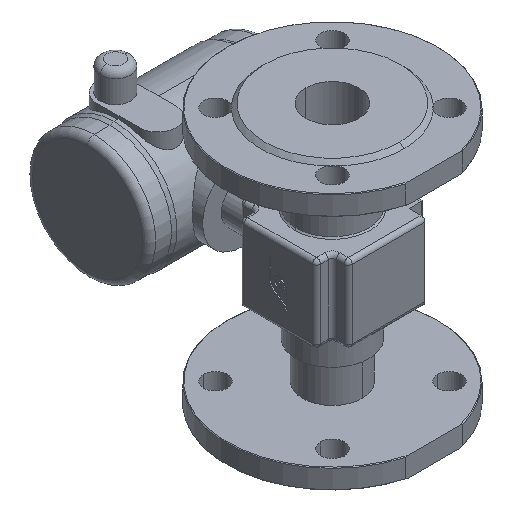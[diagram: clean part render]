
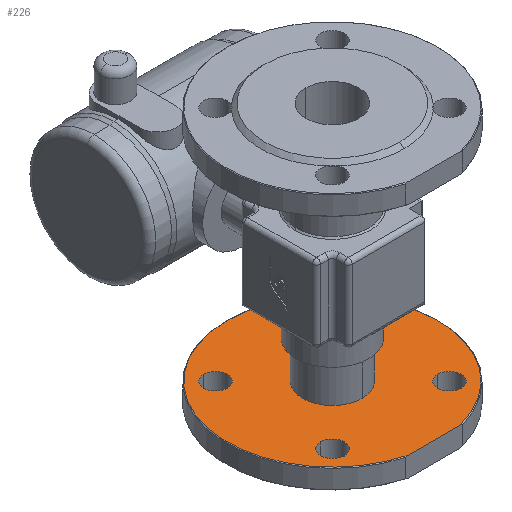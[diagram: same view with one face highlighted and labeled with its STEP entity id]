
A CAD part, isometric view. The second image highlights one B-rep face of the part: STEP entity #226.
In plain terms, the highlighted planar face has unit normal (0, 0, 1).
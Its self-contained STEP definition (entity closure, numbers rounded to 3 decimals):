
#9 = VERTEX_POINT ( 'NONE', #5303 ) ;
#173 = DIRECTION ( 'NONE',  ( 1., 0., 0. ) ) ;
#198 = CIRCLE ( 'NONE', #4290, 9. ) ;
#226 = ADVANCED_FACE ( 'NONE', ( #3074, #4238, #6358, #287, #6206, #5241 ), #6306, .T. ) ;
#236 = CARTESIAN_POINT ( 'NONE',  ( 21.703, -77., -167. ) ) ;
#287 = FACE_BOUND ( 'NONE', #4458, .T. ) ;
#324 = EDGE_CURVE ( 'NONE', #758, #1953, #3583, .T. ) ;
#327 = EDGE_CURVE ( 'NONE', #5993, #2385, #3735, .T. ) ;
#346 = DIRECTION ( 'NONE',  ( 0., -1., 0. ) ) ;
#349 = DIRECTION ( 'NONE',  ( 0., 0., 1. ) ) ;
#362 = CARTESIAN_POINT ( 'NONE',  ( 0., 0., -167. ) ) ;
#363 = CIRCLE ( 'NONE', #483, 79.5 ) ;
#422 = DIRECTION ( 'NONE',  ( 0., -1., 0. ) ) ;
#428 = DIRECTION ( 'NONE',  ( 0., 0., -1. ) ) ;
#431 = CARTESIAN_POINT ( 'NONE',  ( 44.194, -44.194, -167. ) ) ;
#483 = AXIS2_PLACEMENT_3D ( 'NONE', #2424, #2417, #2384 ) ;
#493 = ORIENTED_EDGE ( 'NONE', *, *, #5205, .T. ) ;
#544 = CARTESIAN_POINT ( 'NONE',  ( -44.194, 53.194, -167. ) ) ;
#724 = DIRECTION ( 'NONE',  ( 0., -1., 0. ) ) ;
#737 = DIRECTION ( 'NONE',  ( 0., 0., -1. ) ) ;
#758 = VERTEX_POINT ( 'NONE', #3039 ) ;
#761 = CARTESIAN_POINT ( 'NONE',  ( 44.194, -44.194, -167. ) ) ;
#869 = CARTESIAN_POINT ( 'NONE',  ( 19.78, -77., -167. ) ) ;
#960 = EDGE_CURVE ( 'NONE', #4694, #5348, #4862, .T. ) ;
#1115 = EDGE_CURVE ( 'NONE', #2385, #5993, #2652, .T. ) ;
#1265 = AXIS2_PLACEMENT_3D ( 'NONE', #3183, #3173, #3147 ) ;
#1277 = DIRECTION ( 'NONE',  ( 0., 1., 0. ) ) ;
#1279 = DIRECTION ( 'NONE',  ( 0., 0., -1. ) ) ;
#1297 = CARTESIAN_POINT ( 'NONE',  ( 0., 0., -167. ) ) ;
#1404 = EDGE_CURVE ( 'NONE', #1953, #758, #5569, .T. ) ;
#1468 = AXIS2_PLACEMENT_3D ( 'NONE', #2476, #3495, #3511 ) ;
#1623 = EDGE_CURVE ( 'NONE', #2573, #9, #4169, .T. ) ;
#1636 = EDGE_CURVE ( 'NONE', #4838, #4503, #4103, .T. ) ;
#1653 = CARTESIAN_POINT ( 'NONE',  ( 0., 79.5, -167. ) ) ;
#1682 = CIRCLE ( 'NONE', #1468, 9. ) ;
#1717 = EDGE_CURVE ( 'NONE', #5680, #4838, #3558, .T. ) ;
#1760 = AXIS2_PLACEMENT_3D ( 'NONE', #6345, #6199, #6353 ) ;
#1904 = CARTESIAN_POINT ( 'NONE',  ( 44.194, -53.194, -167. ) ) ;
#1953 = VERTEX_POINT ( 'NONE', #3749 ) ;
#2211 = DIRECTION ( 'NONE',  ( 0., 0., -1. ) ) ;
#2384 = DIRECTION ( 'NONE',  ( 0., -1., 0. ) ) ;
#2385 = VERTEX_POINT ( 'NONE', #3700 ) ;
#2417 = DIRECTION ( 'NONE',  ( 0., 0., 1. ) ) ;
#2424 = CARTESIAN_POINT ( 'NONE',  ( 0., 0., -167. ) ) ;
#2476 = CARTESIAN_POINT ( 'NONE',  ( -44.194, 44.194, -167. ) ) ;
#2573 = VERTEX_POINT ( 'NONE', #1904 ) ;
#2652 = CIRCLE ( 'NONE', #4622, 9. ) ;
#3039 = CARTESIAN_POINT ( 'NONE',  ( 0., -22.5, -167. ) ) ;
#3074 = FACE_OUTER_BOUND ( 'NONE', #4526, .T. ) ;
#3147 = DIRECTION ( 'NONE',  ( 0., -1., 0. ) ) ;
#3173 = DIRECTION ( 'NONE',  ( 0., 0., -1. ) ) ;
#3183 = CARTESIAN_POINT ( 'NONE',  ( -44.194, 44.194, -167. ) ) ;
#3357 = EDGE_CURVE ( 'NONE', #6188, #4192, #3853, .T. ) ;
#3495 = DIRECTION ( 'NONE',  ( 0., 0., -1. ) ) ;
#3511 = DIRECTION ( 'NONE',  ( 0., -1., 0. ) ) ;
#3547 = VECTOR ( 'NONE', #173, 1000. ) ;
#3558 = LINE ( 'NONE', #236, #3547 ) ;
#3567 = CARTESIAN_POINT ( 'NONE',  ( -19.78, -77., -167. ) ) ;
#3583 = CIRCLE ( 'NONE', #4756, 22.5 ) ;
#3700 = CARTESIAN_POINT ( 'NONE',  ( -44.194, -35.194, -167. ) ) ;
#3715 = DIRECTION ( 'NONE',  ( 0., 0., -1. ) ) ;
#3722 = DIRECTION ( 'NONE',  ( 0., -1., 0. ) ) ;
#3735 = CIRCLE ( 'NONE', #5346, 9. ) ;
#3749 = CARTESIAN_POINT ( 'NONE',  ( 0., 22.5, -167. ) ) ;
#3816 = EDGE_CURVE ( 'NONE', #4192, #6188, #1682, .T. ) ;
#3848 = CARTESIAN_POINT ( 'NONE',  ( -44.194, -44.194, -167. ) ) ;
#3853 = CIRCLE ( 'NONE', #1265, 9. ) ;
#3875 = AXIS2_PLACEMENT_3D ( 'NONE', #1297, #1279, #1277 ) ;
#3983 = ORIENTED_EDGE ( 'NONE', *, *, #324, .T. ) ;
#4045 = DIRECTION ( 'NONE',  ( 0., 1., 0. ) ) ;
#4051 = DIRECTION ( 'NONE',  ( 0., -1., 0. ) ) ;
#4103 = CIRCLE ( 'NONE', #5882, 79.5 ) ;
#4128 = ORIENTED_EDGE ( 'NONE', *, *, #1404, .T. ) ;
#4169 = CIRCLE ( 'NONE', #4692, 9. ) ;
#4180 = CARTESIAN_POINT ( 'NONE',  ( -44.194, -44.194, -167. ) ) ;
#4192 = VERTEX_POINT ( 'NONE', #5071 ) ;
#4196 = CARTESIAN_POINT ( 'NONE',  ( 0., 0., -167. ) ) ;
#4201 = DIRECTION ( 'NONE',  ( 0., 0., -1. ) ) ;
#4238 = FACE_BOUND ( 'NONE', #4614, .T. ) ;
#4290 = AXIS2_PLACEMENT_3D ( 'NONE', #5534, #5495, #5463 ) ;
#4340 = ORIENTED_EDGE ( 'NONE', *, *, #5537, .T. ) ;
#4417 = ORIENTED_EDGE ( 'NONE', *, *, #960, .T. ) ;
#4442 = CIRCLE ( 'NONE', #4702, 9. ) ;
#4458 = EDGE_LOOP ( 'NONE', ( #4753, #4748 ) ) ;
#4480 = EDGE_LOOP ( 'NONE', ( #4128, #3983 ) ) ;
#4503 = VERTEX_POINT ( 'NONE', #1653 ) ;
#4526 = EDGE_LOOP ( 'NONE', ( #5251, #6186, #5873 ) ) ;
#4608 = EDGE_LOOP ( 'NONE', ( #493, #5219 ) ) ;
#4614 = EDGE_LOOP ( 'NONE', ( #5794, #5524 ) ) ;
#4622 = AXIS2_PLACEMENT_3D ( 'NONE', #3848, #3715, #3722 ) ;
#4668 = EDGE_LOOP ( 'NONE', ( #4417, #4340 ) ) ;
#4692 = AXIS2_PLACEMENT_3D ( 'NONE', #431, #428, #422 ) ;
#4694 = VERTEX_POINT ( 'NONE', #6031 ) ;
#4702 = AXIS2_PLACEMENT_3D ( 'NONE', #761, #737, #724 ) ;
#4748 = ORIENTED_EDGE ( 'NONE', *, *, #3816, .T. ) ;
#4753 = ORIENTED_EDGE ( 'NONE', *, *, #3357, .T. ) ;
#4756 = AXIS2_PLACEMENT_3D ( 'NONE', #4196, #4201, #4045 ) ;
#4838 = VERTEX_POINT ( 'NONE', #869 ) ;
#4862 = CIRCLE ( 'NONE', #5625, 9. ) ;
#5071 = CARTESIAN_POINT ( 'NONE',  ( -44.194, 35.194, -167. ) ) ;
#5205 = EDGE_CURVE ( 'NONE', #9, #2573, #4442, .T. ) ;
#5219 = ORIENTED_EDGE ( 'NONE', *, *, #1623, .T. ) ;
#5241 = FACE_BOUND ( 'NONE', #4480, .T. ) ;
#5251 = ORIENTED_EDGE ( 'NONE', *, *, #1717, .T. ) ;
#5303 = CARTESIAN_POINT ( 'NONE',  ( 44.194, -35.194, -167. ) ) ;
#5346 = AXIS2_PLACEMENT_3D ( 'NONE', #4180, #2211, #4051 ) ;
#5348 = VERTEX_POINT ( 'NONE', #5366 ) ;
#5366 = CARTESIAN_POINT ( 'NONE',  ( 44.194, 35.194, -167. ) ) ;
#5459 = CARTESIAN_POINT ( 'NONE',  ( -44.194, -53.194, -167. ) ) ;
#5463 = DIRECTION ( 'NONE',  ( 0., -1., 0. ) ) ;
#5495 = DIRECTION ( 'NONE',  ( 0., 0., -1. ) ) ;
#5505 = CARTESIAN_POINT ( 'NONE',  ( 44.194, 44.194, -167. ) ) ;
#5524 = ORIENTED_EDGE ( 'NONE', *, *, #327, .T. ) ;
#5531 = DIRECTION ( 'NONE',  ( 0., 0., -1. ) ) ;
#5534 = CARTESIAN_POINT ( 'NONE',  ( 44.194, 44.194, -167. ) ) ;
#5536 = DIRECTION ( 'NONE',  ( 0., -1., 0. ) ) ;
#5537 = EDGE_CURVE ( 'NONE', #5348, #4694, #198, .T. ) ;
#5569 = CIRCLE ( 'NONE', #3875, 22.5 ) ;
#5625 = AXIS2_PLACEMENT_3D ( 'NONE', #5505, #5531, #5536 ) ;
#5680 = VERTEX_POINT ( 'NONE', #3567 ) ;
#5794 = ORIENTED_EDGE ( 'NONE', *, *, #1115, .T. ) ;
#5873 = ORIENTED_EDGE ( 'NONE', *, *, #6126, .T. ) ;
#5882 = AXIS2_PLACEMENT_3D ( 'NONE', #362, #349, #346 ) ;
#5993 = VERTEX_POINT ( 'NONE', #5459 ) ;
#6031 = CARTESIAN_POINT ( 'NONE',  ( 44.194, 53.194, -167. ) ) ;
#6126 = EDGE_CURVE ( 'NONE', #4503, #5680, #363, .T. ) ;
#6186 = ORIENTED_EDGE ( 'NONE', *, *, #1636, .T. ) ;
#6188 = VERTEX_POINT ( 'NONE', #544 ) ;
#6199 = DIRECTION ( 'NONE',  ( 0., 0., 1. ) ) ;
#6206 = FACE_BOUND ( 'NONE', #4668, .T. ) ;
#6306 = PLANE ( 'NONE',  #1760 ) ;
#6345 = CARTESIAN_POINT ( 'NONE',  ( 0., 80., -167. ) ) ;
#6353 = DIRECTION ( 'NONE',  ( 0., -1., 0. ) ) ;
#6358 = FACE_BOUND ( 'NONE', #4608, .T. ) ;
